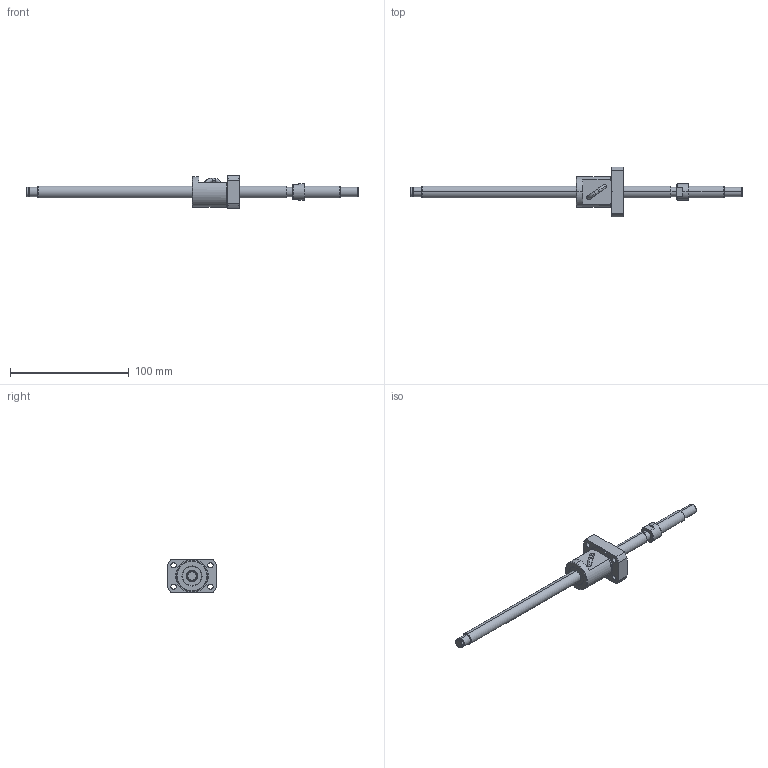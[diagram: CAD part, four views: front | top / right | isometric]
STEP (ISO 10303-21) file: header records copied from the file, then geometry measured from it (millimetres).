
FILE_DESCRIPTION (( 'STEP AP214' ), '1' );
FILE_NAME ('BS1005A-3D.STEP', '2014-03-07T17:04:30', ( '' ), ( '' ), 'SwSTEP 2.0', 'SolidWorks 2012', '' );
FILE_SCHEMA (( 'AUTOMOTIVE_DESIGN' ));
Length unit declared in the file: millimetre
Products named in the file (3): BS1005AŽ²; BS1005Aナット; BS1005A-3D
Assembly tree (2 placements, depth 2):
  BS1005A-3D
    BS1005Aナット
    BS1005AŽ²
Bounding box: 280 x 42 x 28 mm (x, y, z)
Volume: 42487.6 mm3; surface area: 18877.6 mm2
Topology: 5 solids, 5 shells, 163 faces, 409 edges, 265 vertices
Faces by surface type: cylinder 78, plane 45, cone 34, torus 4, bspline 2
Entity records: 6247 total; most frequent: CARTESIAN_POINT 2080, DIRECTION 866, ORIENTED_EDGE 814, EDGE_CURVE 407, AXIS2_PLACEMENT_3D 365, VERTEX_POINT 265, CIRCLE 199, EDGE_LOOP 198
